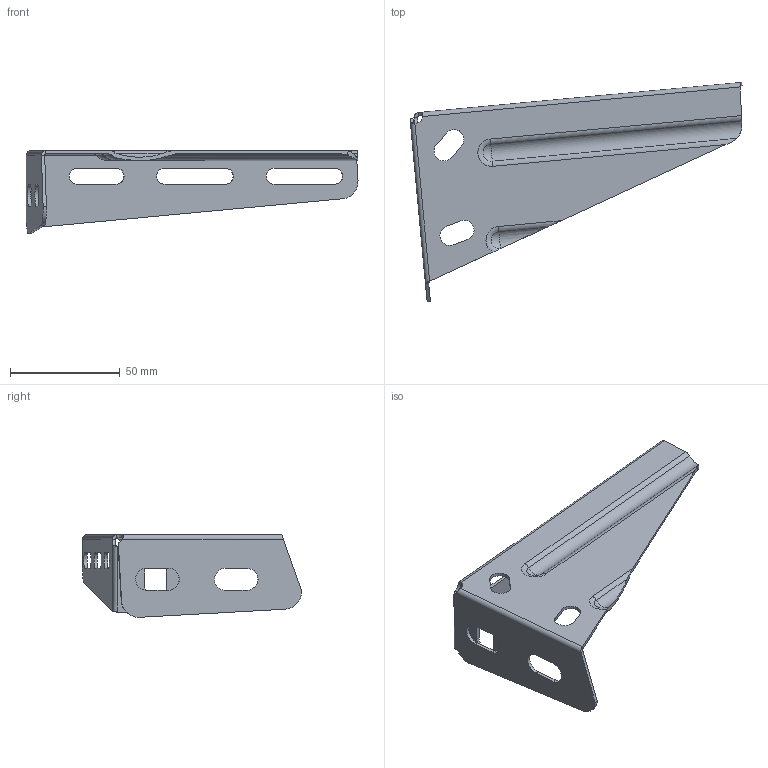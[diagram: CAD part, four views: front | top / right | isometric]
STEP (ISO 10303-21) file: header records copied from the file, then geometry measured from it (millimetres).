
FILE_DESCRIPTION (( 'STEP AP214' ), '1' );
FILE_NAME ('SCR100.STEP', '2023-06-28T09:44:43', ( '' ), ( '' ), 'SwSTEP 2.0', 'SolidWorks 2022', '' );
FILE_SCHEMA (( 'AUTOMOTIVE_DESIGN' ));
Length unit declared in the file: millimetre
Products named in the file (1): SCR100
Bounding box: 151.17 x 99.77 x 37.65 mm (x, y, z)
Volume: 21394.3 mm3; surface area: 30133.8 mm2
Topology: 1 solids, 1 shells, 101 faces, 267 edges, 168 vertices
Faces by surface type: cylinder 52, plane 35, bspline 6, sphere 4, torus 4
Entity records: 3413 total; most frequent: CARTESIAN_POINT 881, ORIENTED_EDGE 534, DIRECTION 509, EDGE_CURVE 267, AXIS2_PLACEMENT_3D 186, VERTEX_POINT 168, LINE 137, VECTOR 137
